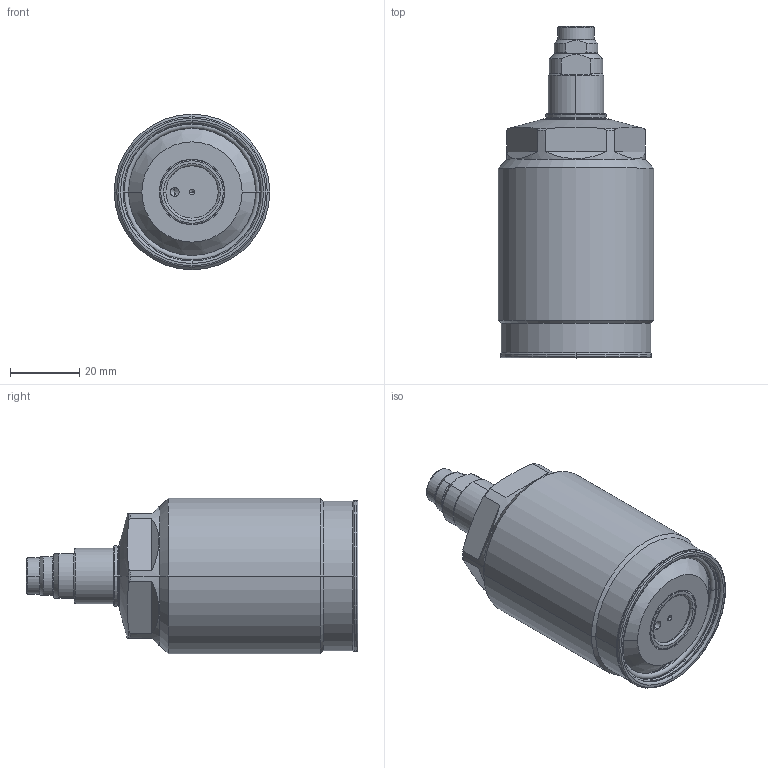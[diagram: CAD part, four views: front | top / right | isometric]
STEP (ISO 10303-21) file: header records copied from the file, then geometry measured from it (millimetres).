
FILE_DESCRIPTION(/* description */ (''),/* implementation_level */ '2;1');
FILE_NAME(/* name */ 'TSS45-M.stp',/* time_stamp */ '2026-02-04T11:27:12+08:00',/* author */ (''),/* organization */ (''),/* preprocessor_version */ 'ST-DEVELOPER v16.7',/* originating_system */ 'SIEMENS PLM Software NX 12.0',/* authorisation */ '');
FILE_SCHEMA (('AUTOMOTIVE_DESIGN { 1 0 10303 214 3 1 1 1 }'));
Length unit declared in the file: millimetre
Products named in the file (11): XLC-M10_Oring166; XLC-M10SP_pin167; XLC-M10SP_contactbolt168; XLC-M10SP_pad169; XLC-M10_Oring1242170; TSS45-04; TSS45-M03172; TSS45-M02173; XLC-M10_-M174; TSS45-M01175; TSS45-M_stp
Assembly tree (10 placements, depth 3):
  TSS45-M_stp
    TSS45-M01175
      XLC-M10_Oring1242170
    TSS45-M02173
    TSS45-M03172
    TSS45-04
    XLC-M10_-M174
      XLC-M10SP_pad169
      XLC-M10SP_contactbolt168
      XLC-M10SP_pin167
      XLC-M10_Oring166
Bounding box: 45 x 96 x 45 mm (x, y, z)
Volume: 102054.4 mm3; surface area: 17666.3 mm2
Topology: 8 solids, 8 shells, 428 faces, 901 edges, 498 vertices
Faces by surface type: cone 248, torus 69, cylinder 60, plane 45, sphere 6
Entity records: 12094 total; most frequent: CARTESIAN_POINT 2488, DIRECTION 2226, ORIENTED_EDGE 1794, AXIS2_PLACEMENT_3D 944, EDGE_CURVE 897, CIRCLE 505, VERTEX_POINT 498, EDGE_LOOP 455
